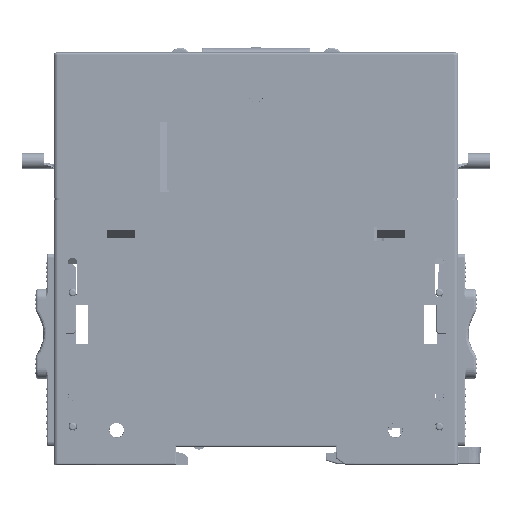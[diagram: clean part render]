
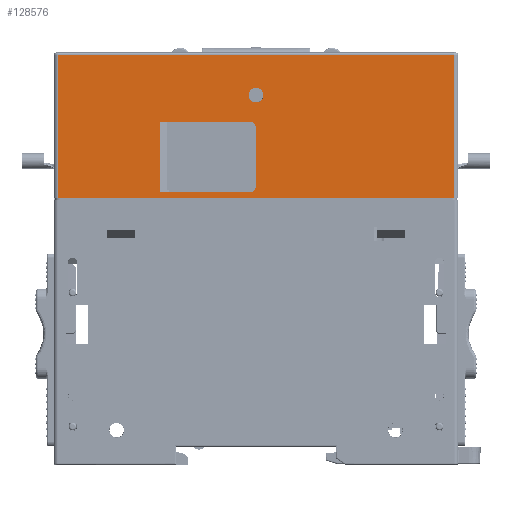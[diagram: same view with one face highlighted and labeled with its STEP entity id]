
A CAD part, left-side view. The second image highlights one B-rep face of the part: STEP entity #128576.
In plain terms, the highlighted planar face has unit normal (-1, 0, 0).
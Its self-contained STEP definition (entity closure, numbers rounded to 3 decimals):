
#87385=DIRECTION('',(0.,0.,1.));
#87386=VECTOR('',#87385,13.2);
#87387=CARTESIAN_POINT('',(-80.,0.05,61.9));
#87388=LINE('',#87387,#87386);
#87392=DIRECTION('',(0.,1.,0.));
#87393=VECTOR('',#87392,19.95);
#87394=CARTESIAN_POINT('',(-80.,1.3,76.35));
#87395=LINE('',#87394,#87393);
#87399=DIRECTION('',(0.,0.,-1.));
#87400=VECTOR('',#87399,15.7);
#87401=CARTESIAN_POINT('',(-80.,21.25,76.35));
#87402=LINE('',#87401,#87400);
#87406=DIRECTION('',(0.,-1.,0.));
#87407=VECTOR('',#87406,19.95);
#87408=CARTESIAN_POINT('',(-80.,21.25,60.65));
#87409=LINE('',#87408,#87407);
#87413=CARTESIAN_POINT('',(-80.,0.,82.25));
#87414=DIRECTION('',(-1.,0.,0.));
#87415=DIRECTION('',(0.,-1.,0.));
#87416=AXIS2_PLACEMENT_3D('',#87413,#87414,#87415);
#87421=CARTESIAN_POINT('',(-80.,0.,82.25));
#87422=DIRECTION('',(-1.,0.,0.));
#87423=DIRECTION('',(0.,1.,0.));
#87424=AXIS2_PLACEMENT_3D('',#87421,#87422,#87423);
#87429=DIRECTION('',(0.,0.,-1.));
#87430=VECTOR('',#87429,31.97);
#87431=CARTESIAN_POINT('',(-80.,-44.,91.22));
#87432=LINE('',#87431,#87430);
#87436=DIRECTION('',(0.,0.,-1.));
#87437=VECTOR('',#87436,31.97);
#87438=CARTESIAN_POINT('',(-80.,44.,91.22));
#87439=LINE('',#87438,#87437);
#87457=CARTESIAN_POINT('',(-80.,1.3,61.9));
#87458=DIRECTION('',(1.,0.,0.));
#87459=DIRECTION('',(0.,-1.,0.));
#87460=AXIS2_PLACEMENT_3D('',#87457,#87458,#87459);
#87943=DIRECTION('',(0.,-1.,0.));
#87944=VECTOR('',#87943,88.);
#87945=CARTESIAN_POINT('',(-80.,44.,59.25));
#87946=LINE('',#87945,#87944);
#98167=DIRECTION('',(0.,1.,0.));
#98168=VECTOR('',#98167,88.);
#98169=CARTESIAN_POINT('',(-80.,-44.,91.22));
#98170=LINE('',#98169,#98168);
#122636=CARTESIAN_POINT('',(-80.,1.3,75.1));
#122637=DIRECTION('',(1.,0.,0.));
#122638=DIRECTION('',(0.,0.,1.));
#122639=AXIS2_PLACEMENT_3D('',#122636,#122637,#122638);
#123348=CARTESIAN_POINT('',(-80.,0.05,61.9));
#123349=VERTEX_POINT('',#123348);
#123350=CARTESIAN_POINT('',(-80.,1.3,60.65));
#123351=VERTEX_POINT('',#123350);
#123354=CARTESIAN_POINT('',(-80.,1.3,76.35));
#123355=VERTEX_POINT('',#123354);
#123356=CARTESIAN_POINT('',(-80.,0.05,75.1));
#123357=VERTEX_POINT('',#123356);
#123382=CARTESIAN_POINT('',(-80.,-1.65,82.25));
#123383=CARTESIAN_POINT('',(-80.,1.65,82.25));
#123384=VERTEX_POINT('',#123382);
#123385=VERTEX_POINT('',#123383);
#125416=CARTESIAN_POINT('',(-80.,-44.,59.25));
#125418=VERTEX_POINT('',#125416);
#125419=CARTESIAN_POINT('',(-80.,-44.,91.22));
#125420=VERTEX_POINT('',#125419);
#125451=CARTESIAN_POINT('',(-80.,44.,59.25));
#125453=VERTEX_POINT('',#125451);
#125457=CARTESIAN_POINT('',(-80.,44.,91.22));
#125458=VERTEX_POINT('',#125457);
#125795=CARTESIAN_POINT('',(-80.,21.25,76.35));
#125796=CARTESIAN_POINT('',(-80.,21.25,60.65));
#125797=VERTEX_POINT('',#125795);
#125798=VERTEX_POINT('',#125796);
#128541=CARTESIAN_POINT('',(-80.,0.,0.));
#128542=DIRECTION('',(1.,0.,0.));
#128543=DIRECTION('',(0.,0.,-1.));
#128544=AXIS2_PLACEMENT_3D('',#128541,#128542,#128543);
#128545=PLANE('',#128544);
#128547=ORIENTED_EDGE('',*,*,#128546,.T.);
#128549=ORIENTED_EDGE('',*,*,#128548,.F.);
#128551=ORIENTED_EDGE('',*,*,#128550,.F.);
#128553=ORIENTED_EDGE('',*,*,#128552,.F.);
#128554=EDGE_LOOP('',(#128547,#128549,#128551,#128553));
#128555=FACE_OUTER_BOUND('',#128554,.F.);
#128557=ORIENTED_EDGE('',*,*,#128556,.T.);
#128559=ORIENTED_EDGE('',*,*,#128558,.T.);
#128560=EDGE_LOOP('',(#128557,#128559));
#128561=FACE_BOUND('',#128560,.F.);
#128563=ORIENTED_EDGE('',*,*,#128562,.T.);
#128565=ORIENTED_EDGE('',*,*,#128564,.F.);
#128567=ORIENTED_EDGE('',*,*,#128566,.T.);
#128569=ORIENTED_EDGE('',*,*,#128568,.T.);
#128571=ORIENTED_EDGE('',*,*,#128570,.T.);
#128573=ORIENTED_EDGE('',*,*,#128572,.F.);
#128574=EDGE_LOOP('',(#128563,#128565,#128567,#128569,#128571,#128573));
#128575=FACE_BOUND('',#128574,.F.);
#87417=CIRCLE('',#87416,1.65);
#87425=CIRCLE('',#87424,1.65);
#87461=CIRCLE('',#87460,1.25);
#122640=CIRCLE('',#122639,1.25);
#128546=EDGE_CURVE('',#125420,#125418,#87432,.T.);
#128548=EDGE_CURVE('',#125453,#125418,#87946,.T.);
#128550=EDGE_CURVE('',#125458,#125453,#87439,.T.);
#128552=EDGE_CURVE('',#125420,#125458,#98170,.T.);
#128556=EDGE_CURVE('',#123384,#123385,#87417,.T.);
#128558=EDGE_CURVE('',#123385,#123384,#87425,.T.);
#128562=EDGE_CURVE('',#123349,#123357,#87388,.T.);
#128564=EDGE_CURVE('',#123355,#123357,#122640,.T.);
#128566=EDGE_CURVE('',#123355,#125797,#87395,.T.);
#128568=EDGE_CURVE('',#125797,#125798,#87402,.T.);
#128570=EDGE_CURVE('',#125798,#123351,#87409,.T.);
#128572=EDGE_CURVE('',#123349,#123351,#87461,.T.);
#128576=ADVANCED_FACE('',(#128555,#128561,#128575),#128545,.F.);
